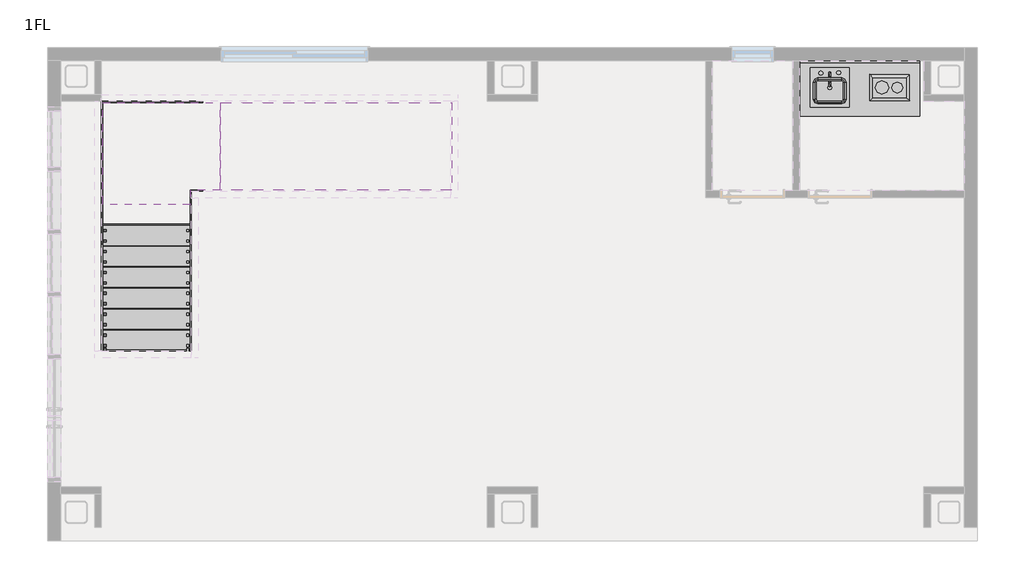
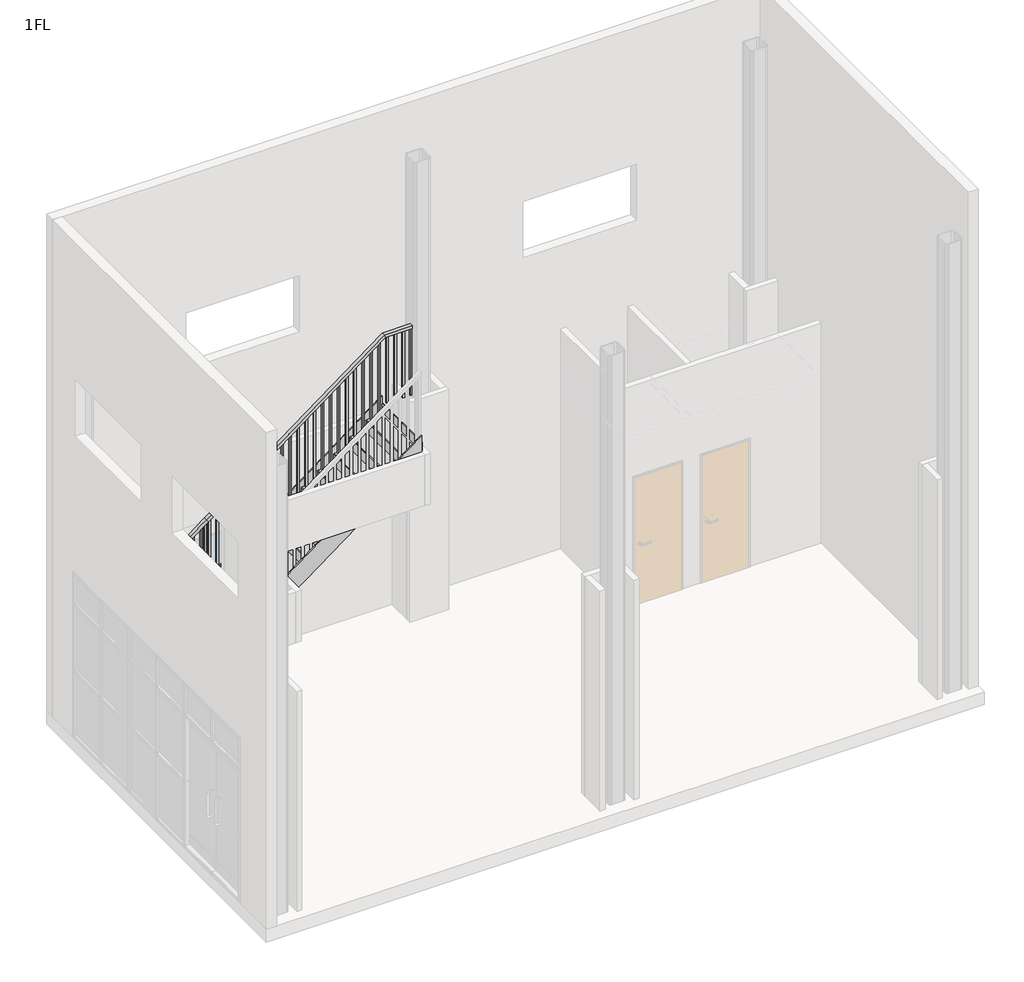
# One storey, part 3 of 3: 7 members, 2 proxies, 2 stair flights, 1 flow terminal, 1 furniture element, 1 railing, 1 slab.
"""IFC4 building model written with IfcOpenShell, lengths in millimetres."""

from ifc_helpers import new_model, si_unit, frame, origin, place, context, project, spatial, polyline, outline, extrude, faceted_brep, transform, mapped, element, save
from components import proxy_1372mm_902c12d3, proxy_305_x_457mm_75991893, flow_terminal_450_x_450mm_65598b4f, furniture_600mm_61525606, slab_593adf1e, stair_flight_b28b8e51, stair_flight_15dfc8d3

model = new_model("IFC4")

# Units and contexts
model_context = context("Model", 3, world=origin())
ifc_project = project(units=[si_unit("LENGTHUNIT", "METRE", prefix="MILLI")], contexts=[model_context])

# Site, building, storey
site = spatial("IfcSite", under=ifc_project)
building = spatial("IfcBuilding", under=site)
storey = spatial("IfcBuildingStorey", under=building, Name="1FL", Elevation=200.0)

# Proxies
placement = place(None, origin())
proxy_1372mm_shape = proxy_1372mm_902c12d3(model_context)
element("IfcBuildingElementProxy", 1, Name="システムキッチン - スケール(小) - 3D : 1372mm", ObjectType="システムキッチン - スケール(小) - 3D : 1372mm", at=placement, inside=storey, context=model_context, shape_type="MappedRepresentation", body=[
    mapped(proxy_1372mm_shape, transform((3909.3742386, 2761.0382733, 200.0), x_axis=(1.0, 0.0, 0.0), y_axis=(0.0, 1.0, 0.0), z_axis=(0.0, 0.0, 1.0))),
])
proxy_305_x_457mm_shape = proxy_305_x_457mm_75991893(model_context)
element("IfcBuildingElementProxy", 2, Name="レンジ台-2 ユニット : 305 x 457mm", ObjectType="レンジ台-2 ユニット : 305 x 457mm", at=placement, inside=storey, context=model_context, shape_type="MappedRepresentation", body=[
    mapped(proxy_305_x_457mm_shape, transform((4301.3367391, 2379.8382733, 240.0), x_axis=(0.0, 1.0, 0.0), y_axis=(-1.0, 0.0, 0.0), z_axis=(0.0, 0.0, 1.0))),
])

# Flow terminal
flow_terminal_450_x_450mm_shape = flow_terminal_450_x_450mm_65598b4f(model_context)
element("IfcFlowTerminal", 3, ObjectType="シンク キッチン - アイランド : 450 x 450mm", at=placement, inside=storey, context=model_context, shape_type="MappedRepresentation", body=[
    mapped(flow_terminal_450_x_450mm_shape, transform((3569.422703, 2453.6928722, 240.0), x_axis=(1.0, 0.0, 0.0), y_axis=(0.0, 1.0, 0.0), z_axis=(0.0, 0.0, 1.0))),
])

# Furniture
furniture_600mm_shape = furniture_600mm_61525606(model_context)
element("IfcFurniture", 4, ObjectType="カウンタ シンク開口付 : 600mm", at=placement, inside=storey, context=model_context, shape_type="MappedRepresentation", body=[
    mapped(furniture_600mm_shape, transform((4442.5742386, 2761.0382733, 240.0), x_axis=(1.0, 0.0, 0.0), y_axis=(0.0, 1.0, 0.0), z_axis=(0.0, 0.0, 1.0))),
])

# Members
element("IfcMember", 5, ObjectType="側桁 - メタル - 15 mm 幅 50 mm 奥行き", at=placement, inside=storey, context=model_context, shape_type="SweptSolid", body=[
    extrude(outline(polyline([(-563.9617267, 200.0), (-563.9617267, 486.25), (1021.0382733, 1675.0), (1121.0382733, 1375.0), (-445.6283934, 200.0), (-563.9617267, 200.0)])), frame((-4757.8880564, 0.0, 0.0), z_axis=(1.0, 0.0, 0.0), x_axis=(0.0, 1.0, 0.0)), (0.0, 0.0, 1.0), 15.0),
])
element("IfcMember", 6, ObjectType="側桁 - メタル - 15 mm 幅 50 mm 奥行き", at=placement, inside=storey, context=model_context, shape_type="SweptSolid", body=[
    extrude(outline(polyline([(-563.9617267, 200.0), (-563.9617267, 486.25), (1021.0382733, 1675.0), (1121.0382733, 1375.0), (-445.6283934, 200.0), (-563.9617267, 200.0)])), frame((-3742.8880564, 0.0, 0.0), z_axis=(1.0, 0.0, 0.0), x_axis=(0.0, 1.0, 0.0)), (0.0, 0.0, 1.0), 15.0),
])
element("IfcMember", 7, ObjectType="側桁 - メタル - 15 mm 幅 50 mm 奥行き", at=placement, inside=storey, context=model_context, shape_type="SweptSolid", body=[
    extrude(outline(polyline([(1675.0, -3732.3880564), (1375.0, -3632.3880564), (3531.25, -757.3880564), (3906.25, -757.3880564), (1675.0, -3732.3880564)])), frame((0.0, 2281.5382733, 0.0), z_axis=(0.0, 1.0, 0.0), x_axis=(0.0, 0.0, 1.0)), (0.0, 0.0, 1.0), 15.0),
])
element("IfcMember", 8, ObjectType="側桁 - メタル - 15 mm 幅 50 mm 奥行き", at=placement, inside=storey, context=model_context, shape_type="SweptSolid", body=[
    extrude(outline(polyline([(1678.375, -3727.8880564), (1375.0, -3727.8880564), (1375.0, -3632.3880564), (3531.25, -757.3880564), (3906.25, -757.3880564), (1678.375, -3727.8880564)])), frame((0.0, 1266.5382733, 0.0), z_axis=(0.0, 1.0, 0.0), x_axis=(0.0, 0.0, 1.0)), (0.0, 0.0, 1.0), 15.0),
])
element("IfcMember", 9, ObjectType="側桁 - メタル - 15 mm 幅 50 mm 奥行き", at=placement, inside=storey, context=model_context, shape_type="Brep", body=[
    faceted_brep([(-3732.3880564, 2281.5382733, 1675.0), (-3732.3880564, 2296.5382733, 1675.0), (-4757.8880564, 2296.5382733, 1675.0), (-4742.8880564, 2281.5382733, 1675.0), (-3632.3880564, 2281.5382733, 1375.0), (-4742.8880564, 2281.5382733, 1375.0), (-3632.3880564, 2296.5382733, 1375.0), (-4757.8880564, 2296.5382733, 1375.0)], [[[0, 1, 2, 3]], [[4, 0, 3, 5]], [[6, 4, 5, 7]], [[1, 6, 7, 2]], [[1, 0, 4, 6]], [[2, 7, 5, 3]]]),
])
element("IfcMember", 10, ObjectType="側桁 - メタル - 15 mm 幅 50 mm 奥行き", at=placement, inside=storey, context=model_context, shape_type="Brep", body=[
    faceted_brep([(-4742.8880564, 2281.5382733, 1675.0), (-4757.8880564, 2296.5382733, 1675.0), (-4757.8880564, 1021.0382733, 1675.0), (-4742.8880564, 1021.0382733, 1675.0), (-4742.8880564, 2281.5382733, 1375.0), (-4742.8880564, 1121.0382733, 1375.0), (-4757.8880564, 2296.5382733, 1375.0), (-4757.8880564, 1121.0382733, 1375.0)], [[[0, 1, 2, 3]], [[4, 0, 3, 5]], [[6, 4, 5, 7]], [[1, 6, 7, 2]], [[1, 0, 4, 6]], [[2, 7, 5, 3]]]),
])
element("IfcMember", 11, ObjectType="側桁 - メタル - 15 mm 幅 50 mm 奥行き", at=placement, inside=storey, context=model_context, shape_type="SweptSolid", body=[
    extrude(outline(polyline([(1121.0382733, 1375.0), (1021.0382733, 1675.0), (1281.5382733, 1675.0), (1281.5382733, 1375.0), (1121.0382733, 1375.0)])), frame((-3742.8880564, 0.0, 0.0), z_axis=(1.0, 0.0, 0.0), x_axis=(0.0, 1.0, 0.0)), (0.0, 0.0, 1.0), 15.0),
])

# Railing
element("IfcRailing", 12, ObjectType="1100mm", at=placement, inside=storey, context=model_context, shape_type="SolidModel", body=[
    faceted_brep([(-4742.4880564, -563.9617267, 1480.0), (-4742.4880564, -563.9617267, 1417.5), (-4692.4880564, -563.9617267, 1417.5), (-4692.4880564, -563.9617267, 1480.0), (-4742.4880564, 1116.0382733, 2740.0), (-4742.4880564, 1132.7049399, 2690.0), (-4692.4880564, 1132.7049399, 2690.0), (-4692.4880564, 1116.0382733, 2740.0), (-4742.4880564, 2281.1382733, 2740.0), (-4742.4880564, 2281.1382733, 2690.0), (-4692.4880564, 2231.1382733, 2690.0), (-4692.4880564, 2231.1382733, 2740.0), (-3637.3880564, 2281.1382733, 2740.0), (-3620.7213898, 2281.1382733, 2690.0), (-3620.7213898, 2231.1382733, 2690.0), (-3637.3880564, 2231.1382733, 2740.0), (-3397.3880564, 2281.1382733, 2920.0), (-3367.3880564, 2281.1382733, 2880.0), (-3367.3880564, 2231.1382733, 2880.0), (-3397.3880564, 2231.1382733, 2920.0), (-757.3880564, 2281.1382733, 4900.0), (-740.7213898, 2281.1382733, 4850.0), (-740.7213898, 2231.1382733, 4850.0), (-757.3880564, 2231.1382733, 4900.0), (-337.3880564, 2281.1382733, 4900.0), (-337.3880564, 2231.1382733, 4900.0), (-337.3880564, 2231.1382733, 4850.0), (-337.3880564, 2281.1382733, 4850.0)], [[[0, 1, 2, 3]], [[1, 0, 4, 5]], [[2, 1, 5, 6]], [[3, 2, 6, 7]], [[0, 3, 7, 4]], [[5, 4, 8, 9]], [[6, 5, 9, 10]], [[7, 6, 10, 11]], [[4, 7, 11, 8]], [[9, 8, 12, 13]], [[10, 9, 13, 14]], [[11, 10, 14, 15]], [[8, 11, 15, 12]], [[13, 12, 16, 17]], [[14, 13, 17, 18]], [[15, 14, 18, 19]], [[12, 15, 19, 16]], [[17, 16, 20, 21]], [[18, 17, 21, 22]], [[19, 18, 22, 23]], [[16, 19, 23, 20]], [[24, 25, 26, 27]], [[21, 20, 24, 27]], [[22, 21, 27, 26]], [[23, 22, 26, 25]], [[20, 23, 25, 24]]]),
    extrude(outline(polyline([(-469.8880564, 2268.6382733), (-444.8880564, 2268.6382733), (-444.8880564, 2243.6382733), (-469.8880564, 2243.6382733), (-469.8880564, 2268.6382733)])), frame((0.0, 0.0, 3800.0), z_axis=(0.0, 0.0, 1.0), x_axis=(1.0, 0.0, 0.0)), (0.0, 0.0, 1.0), 1050.0),
    extrude(outline(polyline([(-589.8880564, 2268.6382733), (-564.8880564, 2268.6382733), (-564.8880564, 2243.6382733), (-589.8880564, 2243.6382733), (-589.8880564, 2268.6382733)])), frame((0.0, 0.0, 3800.0), z_axis=(0.0, 0.0, 1.0), x_axis=(1.0, 0.0, 0.0)), (0.0, 0.0, 1.0), 1050.0),
    extrude(outline(polyline([(-709.8880564, 2268.6382733), (-684.8880564, 2268.6382733), (-684.8880564, 2243.6382733), (-709.8880564, 2243.6382733), (-709.8880564, 2268.6382733)])), frame((0.0, 0.0, 3800.0), z_axis=(0.0, 0.0, 1.0), x_axis=(1.0, 0.0, 0.0)), (0.0, 0.0, 1.0), 1050.0),
    extrude(outline(polyline([(3620.0, -829.8880564), (3620.0, -804.8880564), (4801.875, -804.8880564), (4783.125, -829.8880564), (3620.0, -829.8880564)])), frame((0.0, 2243.6382733, 0.0), z_axis=(0.0, 1.0, 0.0), x_axis=(0.0, 0.0, 1.0)), (0.0, 0.0, 1.0), 25.0),
    extrude(outline(polyline([(3620.0, -949.8880564), (3620.0, -924.8880564), (4711.875, -924.8880564), (4693.125, -949.8880564), (3620.0, -949.8880564)])), frame((0.0, 2243.6382733, 0.0), z_axis=(0.0, 1.0, 0.0), x_axis=(0.0, 0.0, 1.0)), (0.0, 0.0, 1.0), 25.0),
    extrude(outline(polyline([(3440.0, -1069.8880564), (3440.0, -1044.8880564), (4621.875, -1044.8880564), (4603.125, -1069.8880564), (3440.0, -1069.8880564)])), frame((0.0, 2243.6382733, 0.0), z_axis=(0.0, 1.0, 0.0), x_axis=(0.0, 0.0, 1.0)), (0.0, 0.0, 1.0), 25.0),
    extrude(outline(polyline([(3440.0, -1189.8880564), (3440.0, -1164.8880564), (4531.875, -1164.8880564), (4513.125, -1189.8880564), (3440.0, -1189.8880564)])), frame((0.0, 2243.6382733, 0.0), z_axis=(0.0, 1.0, 0.0), x_axis=(0.0, 0.0, 1.0)), (0.0, 0.0, 1.0), 25.0),
    extrude(outline(polyline([(3260.0, -1309.8880564), (3260.0, -1284.8880564), (4441.875, -1284.8880564), (4423.125, -1309.8880564), (3260.0, -1309.8880564)])), frame((0.0, 2243.6382733, 0.0), z_axis=(0.0, 1.0, 0.0), x_axis=(0.0, 0.0, 1.0)), (0.0, 0.0, 1.0), 25.0),
    extrude(outline(polyline([(3260.0, -1429.8880564), (3260.0, -1404.8880564), (4351.875, -1404.8880564), (4333.125, -1429.8880564), (3260.0, -1429.8880564)])), frame((0.0, 2243.6382733, 0.0), z_axis=(0.0, 1.0, 0.0), x_axis=(0.0, 0.0, 1.0)), (0.0, 0.0, 1.0), 25.0),
    extrude(outline(polyline([(3080.0, -1549.8880564), (3080.0, -1524.8880564), (4261.875, -1524.8880564), (4243.125, -1549.8880564), (3080.0, -1549.8880564)])), frame((0.0, 2243.6382733, 0.0), z_axis=(0.0, 1.0, 0.0), x_axis=(0.0, 0.0, 1.0)), (0.0, 0.0, 1.0), 25.0),
    extrude(outline(polyline([(3080.0, -1669.8880564), (3080.0, -1644.8880564), (4171.875, -1644.8880564), (4153.125, -1669.8880564), (3080.0, -1669.8880564)])), frame((0.0, 2243.6382733, 0.0), z_axis=(0.0, 1.0, 0.0), x_axis=(0.0, 0.0, 1.0)), (0.0, 0.0, 1.0), 25.0),
    extrude(outline(polyline([(2900.0, -1789.8880564), (2900.0, -1764.8880564), (4081.875, -1764.8880564), (4063.125, -1789.8880564), (2900.0, -1789.8880564)])), frame((0.0, 2243.6382733, 0.0), z_axis=(0.0, 1.0, 0.0), x_axis=(0.0, 0.0, 1.0)), (0.0, 0.0, 1.0), 25.0),
    extrude(outline(polyline([(2900.0, -1909.8880564), (2900.0, -1884.8880564), (3991.875, -1884.8880564), (3973.125, -1909.8880564), (2900.0, -1909.8880564)])), frame((0.0, 2243.6382733, 0.0), z_axis=(0.0, 1.0, 0.0), x_axis=(0.0, 0.0, 1.0)), (0.0, 0.0, 1.0), 25.0),
    extrude(outline(polyline([(2720.0, -2029.8880564), (2720.0, -2004.8880564), (3901.875, -2004.8880564), (3883.125, -2029.8880564), (2720.0, -2029.8880564)])), frame((0.0, 2243.6382733, 0.0), z_axis=(0.0, 1.0, 0.0), x_axis=(0.0, 0.0, 1.0)), (0.0, 0.0, 1.0), 25.0),
    extrude(outline(polyline([(2720.0, -2149.8880564), (2720.0, -2124.8880564), (3811.875, -2124.8880564), (3793.125, -2149.8880564), (2720.0, -2149.8880564)])), frame((0.0, 2243.6382733, 0.0), z_axis=(0.0, 1.0, 0.0), x_axis=(0.0, 0.0, 1.0)), (0.0, 0.0, 1.0), 25.0),
    extrude(outline(polyline([(2540.0, -2269.8880564), (2540.0, -2244.8880564), (3721.875, -2244.8880564), (3703.125, -2269.8880564), (2540.0, -2269.8880564)])), frame((0.0, 2243.6382733, 0.0), z_axis=(0.0, 1.0, 0.0), x_axis=(0.0, 0.0, 1.0)), (0.0, 0.0, 1.0), 25.0),
    extrude(outline(polyline([(2540.0, -2389.8880564), (2540.0, -2364.8880564), (3631.875, -2364.8880564), (3613.125, -2389.8880564), (2540.0, -2389.8880564)])), frame((0.0, 2243.6382733, 0.0), z_axis=(0.0, 1.0, 0.0), x_axis=(0.0, 0.0, 1.0)), (0.0, 0.0, 1.0), 25.0),
    extrude(outline(polyline([(2360.0, -2509.8880564), (2360.0, -2484.8880564), (3541.875, -2484.8880564), (3523.125, -2509.8880564), (2360.0, -2509.8880564)])), frame((0.0, 2243.6382733, 0.0), z_axis=(0.0, 1.0, 0.0), x_axis=(0.0, 0.0, 1.0)), (0.0, 0.0, 1.0), 25.0),
    extrude(outline(polyline([(2360.0, -2629.8880564), (2360.0, -2604.8880564), (3451.875, -2604.8880564), (3433.125, -2629.8880564), (2360.0, -2629.8880564)])), frame((0.0, 2243.6382733, 0.0), z_axis=(0.0, 1.0, 0.0), x_axis=(0.0, 0.0, 1.0)), (0.0, 0.0, 1.0), 25.0),
    extrude(outline(polyline([(2180.0, -2749.8880564), (2180.0, -2724.8880564), (3361.875, -2724.8880564), (3343.125, -2749.8880564), (2180.0, -2749.8880564)])), frame((0.0, 2243.6382733, 0.0), z_axis=(0.0, 1.0, 0.0), x_axis=(0.0, 0.0, 1.0)), (0.0, 0.0, 1.0), 25.0),
    extrude(outline(polyline([(2180.0, -2869.8880564), (2180.0, -2844.8880564), (3271.875, -2844.8880564), (3253.125, -2869.8880564), (2180.0, -2869.8880564)])), frame((0.0, 2243.6382733, 0.0), z_axis=(0.0, 1.0, 0.0), x_axis=(0.0, 0.0, 1.0)), (0.0, 0.0, 1.0), 25.0),
    extrude(outline(polyline([(2000.0, -2989.8880564), (2000.0, -2964.8880564), (3181.875, -2964.8880564), (3163.125, -2989.8880564), (2000.0, -2989.8880564)])), frame((0.0, 2243.6382733, 0.0), z_axis=(0.0, 1.0, 0.0), x_axis=(0.0, 0.0, 1.0)), (0.0, 0.0, 1.0), 25.0),
    extrude(outline(polyline([(2000.0, -3109.8880564), (2000.0, -3084.8880564), (3091.875, -3084.8880564), (3073.125, -3109.8880564), (2000.0, -3109.8880564)])), frame((0.0, 2243.6382733, 0.0), z_axis=(0.0, 1.0, 0.0), x_axis=(0.0, 0.0, 1.0)), (0.0, 0.0, 1.0), 25.0),
    extrude(outline(polyline([(1820.0, -3229.8880564), (1820.0, -3204.8880564), (3001.875, -3204.8880564), (2983.125, -3229.8880564), (1820.0, -3229.8880564)])), frame((0.0, 2243.6382733, 0.0), z_axis=(0.0, 1.0, 0.0), x_axis=(0.0, 0.0, 1.0)), (0.0, 0.0, 1.0), 25.0),
    extrude(outline(polyline([(1820.0, -3349.8880564), (1820.0, -3324.8880564), (2911.875, -3324.8880564), (2893.125, -3349.8880564), (1820.0, -3349.8880564)])), frame((0.0, 2243.6382733, 0.0), z_axis=(0.0, 1.0, 0.0), x_axis=(0.0, 0.0, 1.0)), (0.0, 0.0, 1.0), 25.0),
    extrude(outline(polyline([(1640.0, -3469.9880564), (1640.0, -3444.9880564), (2821.8, -3444.9880564), (2803.05, -3469.9880564), (1640.0, -3469.9880564)])), frame((0.0, 2243.6382733, 0.0), z_axis=(0.0, 1.0, 0.0), x_axis=(0.0, 0.0, 1.0)), (0.0, 0.0, 1.0), 25.0),
    extrude(outline(polyline([(1640.0, -3589.9880564), (1640.0, -3564.9880564), (2731.8, -3564.9880564), (2713.05, -3589.9880564), (1640.0, -3589.9880564)])), frame((0.0, 2243.6382733, 0.0), z_axis=(0.0, 1.0, 0.0), x_axis=(0.0, 0.0, 1.0)), (0.0, 0.0, 1.0), 25.0),
    extrude(outline(polyline([(-3709.9880564, 2268.6382733), (-3684.9880564, 2268.6382733), (-3684.9880564, 2243.6382733), (-3709.9880564, 2243.6382733), (-3709.9880564, 2268.6382733)])), frame((0.0, 0.0, 1640.0), z_axis=(0.0, 0.0, 1.0), x_axis=(1.0, 0.0, 0.0)), (0.0, 0.0, 1.0), 1050.0),
    extrude(outline(polyline([(-3829.9880564, 2268.6382733), (-3804.9880564, 2268.6382733), (-3804.9880564, 2243.6382733), (-3829.9880564, 2243.6382733), (-3829.9880564, 2268.6382733)])), frame((0.0, 0.0, 1640.0), z_axis=(0.0, 0.0, 1.0), x_axis=(1.0, 0.0, 0.0)), (0.0, 0.0, 1.0), 1050.0),
    extrude(outline(polyline([(-3949.9880564, 2268.6382733), (-3924.9880564, 2268.6382733), (-3924.9880564, 2243.6382733), (-3949.9880564, 2243.6382733), (-3949.9880564, 2268.6382733)])), frame((0.0, 0.0, 1640.0), z_axis=(0.0, 0.0, 1.0), x_axis=(1.0, 0.0, 0.0)), (0.0, 0.0, 1.0), 1050.0),
    extrude(outline(polyline([(-4069.9880564, 2268.6382733), (-4044.9880564, 2268.6382733), (-4044.9880564, 2243.6382733), (-4069.9880564, 2243.6382733), (-4069.9880564, 2268.6382733)])), frame((0.0, 0.0, 1640.0), z_axis=(0.0, 0.0, 1.0), x_axis=(1.0, 0.0, 0.0)), (0.0, 0.0, 1.0), 1050.0),
    extrude(outline(polyline([(-4189.9880564, 2268.6382733), (-4164.9880564, 2268.6382733), (-4164.9880564, 2243.6382733), (-4189.9880564, 2243.6382733), (-4189.9880564, 2268.6382733)])), frame((0.0, 0.0, 1640.0), z_axis=(0.0, 0.0, 1.0), x_axis=(1.0, 0.0, 0.0)), (0.0, 0.0, 1.0), 1050.0),
    extrude(outline(polyline([(-4309.9880564, 2268.6382733), (-4284.9880564, 2268.6382733), (-4284.9880564, 2243.6382733), (-4309.9880564, 2243.6382733), (-4309.9880564, 2268.6382733)])), frame((0.0, 0.0, 1640.0), z_axis=(0.0, 0.0, 1.0), x_axis=(1.0, 0.0, 0.0)), (0.0, 0.0, 1.0), 1050.0),
    extrude(outline(polyline([(-4429.9880564, 2268.6382733), (-4404.9880564, 2268.6382733), (-4404.9880564, 2243.6382733), (-4429.9880564, 2243.6382733), (-4429.9880564, 2268.6382733)])), frame((0.0, 0.0, 1640.0), z_axis=(0.0, 0.0, 1.0), x_axis=(1.0, 0.0, 0.0)), (0.0, 0.0, 1.0), 1050.0),
    extrude(outline(polyline([(-4549.9880564, 2268.6382733), (-4524.9880564, 2268.6382733), (-4524.9880564, 2243.6382733), (-4549.9880564, 2243.6382733), (-4549.9880564, 2268.6382733)])), frame((0.0, 0.0, 1640.0), z_axis=(0.0, 0.0, 1.0), x_axis=(1.0, 0.0, 0.0)), (0.0, 0.0, 1.0), 1050.0),
    extrude(outline(polyline([(-4669.9880564, 2268.6382733), (-4644.9880564, 2268.6382733), (-4644.9880564, 2243.6382733), (-4669.9880564, 2243.6382733), (-4669.9880564, 2268.6382733)])), frame((0.0, 0.0, 1640.0), z_axis=(0.0, 0.0, 1.0), x_axis=(1.0, 0.0, 0.0)), (0.0, 0.0, 1.0), 1050.0),
    extrude(outline(polyline([(-4729.9880564, 2243.5382733), (-4729.9880564, 2268.5382733), (-4704.9880564, 2268.5382733), (-4704.9880564, 2243.5382733), (-4729.9880564, 2243.5382733)])), frame((0.0, 0.0, 1640.0), z_axis=(0.0, 0.0, 1.0), x_axis=(1.0, 0.0, 0.0)), (0.0, 0.0, 1.0), 1050.0),
    extrude(outline(polyline([(-4729.9880564, 2123.5382733), (-4729.9880564, 2148.5382733), (-4704.9880564, 2148.5382733), (-4704.9880564, 2123.5382733), (-4729.9880564, 2123.5382733)])), frame((0.0, 0.0, 1640.0), z_axis=(0.0, 0.0, 1.0), x_axis=(1.0, 0.0, 0.0)), (0.0, 0.0, 1.0), 1050.0),
    extrude(outline(polyline([(-4729.9880564, 2003.5382733), (-4729.9880564, 2028.5382733), (-4704.9880564, 2028.5382733), (-4704.9880564, 2003.5382733), (-4729.9880564, 2003.5382733)])), frame((0.0, 0.0, 1640.0), z_axis=(0.0, 0.0, 1.0), x_axis=(1.0, 0.0, 0.0)), (0.0, 0.0, 1.0), 1050.0),
    extrude(outline(polyline([(-4729.9880564, 1883.5382733), (-4729.9880564, 1908.5382733), (-4704.9880564, 1908.5382733), (-4704.9880564, 1883.5382733), (-4729.9880564, 1883.5382733)])), frame((0.0, 0.0, 1640.0), z_axis=(0.0, 0.0, 1.0), x_axis=(1.0, 0.0, 0.0)), (0.0, 0.0, 1.0), 1050.0),
    extrude(outline(polyline([(-4729.9880564, 1763.5382733), (-4729.9880564, 1788.5382733), (-4704.9880564, 1788.5382733), (-4704.9880564, 1763.5382733), (-4729.9880564, 1763.5382733)])), frame((0.0, 0.0, 1640.0), z_axis=(0.0, 0.0, 1.0), x_axis=(1.0, 0.0, 0.0)), (0.0, 0.0, 1.0), 1050.0),
    extrude(outline(polyline([(-4729.9880564, 1643.5382733), (-4729.9880564, 1668.5382733), (-4704.9880564, 1668.5382733), (-4704.9880564, 1643.5382733), (-4729.9880564, 1643.5382733)])), frame((0.0, 0.0, 1640.0), z_axis=(0.0, 0.0, 1.0), x_axis=(1.0, 0.0, 0.0)), (0.0, 0.0, 1.0), 1050.0),
    extrude(outline(polyline([(-4729.9880564, 1523.5382733), (-4729.9880564, 1548.5382733), (-4704.9880564, 1548.5382733), (-4704.9880564, 1523.5382733), (-4729.9880564, 1523.5382733)])), frame((0.0, 0.0, 1640.0), z_axis=(0.0, 0.0, 1.0), x_axis=(1.0, 0.0, 0.0)), (0.0, 0.0, 1.0), 1050.0),
    extrude(outline(polyline([(-4729.9880564, 1403.5382733), (-4729.9880564, 1428.5382733), (-4704.9880564, 1428.5382733), (-4704.9880564, 1403.5382733), (-4729.9880564, 1403.5382733)])), frame((0.0, 0.0, 1640.0), z_axis=(0.0, 0.0, 1.0), x_axis=(1.0, 0.0, 0.0)), (0.0, 0.0, 1.0), 1050.0),
    extrude(outline(polyline([(-4729.9880564, 1283.5382733), (-4729.9880564, 1308.5382733), (-4704.9880564, 1308.5382733), (-4704.9880564, 1283.5382733), (-4729.9880564, 1283.5382733)])), frame((0.0, 0.0, 1640.0), z_axis=(0.0, 0.0, 1.0), x_axis=(1.0, 0.0, 0.0)), (0.0, 0.0, 1.0), 1050.0),
    extrude(outline(polyline([(-4729.9880564, 1163.5382733), (-4729.9880564, 1188.5382733), (-4704.9880564, 1188.5382733), (-4704.9880564, 1163.5382733), (-4729.9880564, 1163.5382733)])), frame((0.0, 0.0, 1640.0), z_axis=(0.0, 0.0, 1.0), x_axis=(1.0, 0.0, 0.0)), (0.0, 0.0, 1.0), 1050.0),
    extrude(outline(polyline([(1043.5382733, 2623.125), (1068.5382733, 2641.875), (1068.5382733, 1460.0), (1043.5382733, 1460.0), (1043.5382733, 2623.125)])), frame((-4729.9880564, 0.0, 0.0), z_axis=(1.0, 0.0, 0.0), x_axis=(0.0, 1.0, 0.0)), (0.0, 0.0, 1.0), 25.0),
    extrude(outline(polyline([(923.5382733, 2533.125), (948.5382733, 2551.875), (948.5382733, 1460.0), (923.5382733, 1460.0), (923.5382733, 2533.125)])), frame((-4729.9880564, 0.0, 0.0), z_axis=(1.0, 0.0, 0.0), x_axis=(0.0, 1.0, 0.0)), (0.0, 0.0, 1.0), 25.0),
    extrude(outline(polyline([(803.5382733, 2443.125), (828.5382733, 2461.875), (828.5382733, 1280.0), (803.5382733, 1280.0), (803.5382733, 2443.125)])), frame((-4729.9880564, 0.0, 0.0), z_axis=(1.0, 0.0, 0.0), x_axis=(0.0, 1.0, 0.0)), (0.0, 0.0, 1.0), 25.0),
    extrude(outline(polyline([(683.5382733, 2353.125), (708.5382733, 2371.875), (708.5382733, 1280.0), (683.5382733, 1280.0), (683.5382733, 2353.125)])), frame((-4729.9880564, 0.0, 0.0), z_axis=(1.0, 0.0, 0.0), x_axis=(0.0, 1.0, 0.0)), (0.0, 0.0, 1.0), 25.0),
    extrude(outline(polyline([(563.5382733, 2263.125), (588.5382733, 2281.875), (588.5382733, 1100.0), (563.5382733, 1100.0), (563.5382733, 2263.125)])), frame((-4729.9880564, 0.0, 0.0), z_axis=(1.0, 0.0, 0.0), x_axis=(0.0, 1.0, 0.0)), (0.0, 0.0, 1.0), 25.0),
    extrude(outline(polyline([(443.5382733, 2173.125), (468.5382733, 2191.875), (468.5382733, 1100.0), (443.5382733, 1100.0), (443.5382733, 2173.125)])), frame((-4729.9880564, 0.0, 0.0), z_axis=(1.0, 0.0, 0.0), x_axis=(0.0, 1.0, 0.0)), (0.0, 0.0, 1.0), 25.0),
    extrude(outline(polyline([(323.5382733, 2083.125), (348.5382733, 2101.875), (348.5382733, 920.0), (323.5382733, 920.0), (323.5382733, 2083.125)])), frame((-4729.9880564, 0.0, 0.0), z_axis=(1.0, 0.0, 0.0), x_axis=(0.0, 1.0, 0.0)), (0.0, 0.0, 1.0), 25.0),
    extrude(outline(polyline([(203.5382733, 1993.125), (228.5382733, 2011.875), (228.5382733, 920.0), (203.5382733, 920.0), (203.5382733, 1993.125)])), frame((-4729.9880564, 0.0, 0.0), z_axis=(1.0, 0.0, 0.0), x_axis=(0.0, 1.0, 0.0)), (0.0, 0.0, 1.0), 25.0),
    extrude(outline(polyline([(83.5382733, 1903.125), (108.5382733, 1921.875), (108.5382733, 740.0), (83.5382733, 740.0), (83.5382733, 1903.125)])), frame((-4729.9880564, 0.0, 0.0), z_axis=(1.0, 0.0, 0.0), x_axis=(0.0, 1.0, 0.0)), (0.0, 0.0, 1.0), 25.0),
    extrude(outline(polyline([(-36.4617267, 1813.125), (-11.4617267, 1831.875), (-11.4617267, 740.0), (-36.4617267, 740.0), (-36.4617267, 1813.125)])), frame((-4729.9880564, 0.0, 0.0), z_axis=(1.0, 0.0, 0.0), x_axis=(0.0, 1.0, 0.0)), (0.0, 0.0, 1.0), 25.0),
    extrude(outline(polyline([(-156.4617267, 1723.125), (-131.4617267, 1741.875), (-131.4617267, 560.0), (-156.4617267, 560.0), (-156.4617267, 1723.125)])), frame((-4729.9880564, 0.0, 0.0), z_axis=(1.0, 0.0, 0.0), x_axis=(0.0, 1.0, 0.0)), (0.0, 0.0, 1.0), 25.0),
    extrude(outline(polyline([(-276.4617267, 1633.125), (-251.4617267, 1651.875), (-251.4617267, 560.0), (-276.4617267, 560.0), (-276.4617267, 1633.125)])), frame((-4729.9880564, 0.0, 0.0), z_axis=(1.0, 0.0, 0.0), x_axis=(0.0, 1.0, 0.0)), (0.0, 0.0, 1.0), 25.0),
    extrude(outline(polyline([(-396.4617267, 1543.125), (-371.4617267, 1561.875), (-371.4617267, 380.0), (-396.4617267, 380.0), (-396.4617267, 1543.125)])), frame((-4729.9880564, 0.0, 0.0), z_axis=(1.0, 0.0, 0.0), x_axis=(0.0, 1.0, 0.0)), (0.0, 0.0, 1.0), 25.0),
    extrude(outline(polyline([(-516.4617267, 1453.125), (-491.4617267, 1471.875), (-491.4617267, 380.0), (-516.4617267, 380.0), (-516.4617267, 1453.125)])), frame((-4729.9880564, 0.0, 0.0), z_axis=(1.0, 0.0, 0.0), x_axis=(0.0, 1.0, 0.0)), (0.0, 0.0, 1.0), 25.0),
    extrude(outline(polyline([(1640.0, -3409.8880564), (1640.0, -3384.8880564), (2866.875, -3384.8880564), (2848.125, -3409.8880564), (1640.0, -3409.8880564)])), frame((0.0, 2243.6382733, 0.0), z_axis=(0.0, 1.0, 0.0), x_axis=(0.0, 0.0, 1.0)), (0.0, 0.0, 1.0), 25.0),
    extrude(outline(polyline([(-4729.9880564, 2243.6382733), (-4729.9880564, 2268.6382733), (-4704.9880564, 2268.6382733), (-4704.9880564, 2243.6382733), (-4729.9880564, 2243.6382733)])), frame((0.0, 0.0, 1640.0), z_axis=(0.0, 0.0, 1.0), x_axis=(1.0, 0.0, 0.0)), (0.0, 0.0, 1.0), 1050.0),
    extrude(outline(polyline([(1103.5382733, 2668.125), (1128.5382733, 2686.875), (1128.5382733, 1640.0), (1103.5382733, 1640.0), (1103.5382733, 2668.125)])), frame((-4729.9880564, 0.0, 0.0), z_axis=(1.0, 0.0, 0.0), x_axis=(0.0, 1.0, 0.0)), (0.0, 0.0, 1.0), 25.0),
    extrude(outline(polyline([(-362.3880564, 2268.6382733), (-337.3880564, 2268.6382733), (-337.3880564, 2243.6382733), (-362.3880564, 2243.6382733), (-362.3880564, 2268.6382733)])), frame((0.0, 0.0, 3800.0), z_axis=(0.0, 0.0, 1.0), x_axis=(1.0, 0.0, 0.0)), (0.0, 0.0, 1.0), 1050.0),
    extrude(outline(polyline([(-563.9617267, 1417.5), (-538.9617267, 1436.25), (-538.9617267, 380.0), (-563.9617267, 380.0), (-563.9617267, 1417.5)])), frame((-4729.9880564, 0.0, 0.0), z_axis=(1.0, 0.0, 0.0), x_axis=(0.0, 1.0, 0.0)), (0.0, 0.0, 1.0), 25.0),
])

# Slab
slab_shape = slab_593adf1e(model_context)
element("IfcSlab", 13, ObjectType="一体型ではない踊り場", at=placement, inside=storey, context=model_context, shape_type="MappedRepresentation", body=[
    mapped(slab_shape, transform((0.0, 0.0, 0.0), x_axis=(1.0, 0.0, 0.0), y_axis=(0.0, 1.0, 0.0), z_axis=(0.0, 0.0, 1.0))),
])

# Stair flights
stair_flight_shape = stair_flight_b28b8e51(model_context)
element("IfcStairFlight", 14, ObjectType="メタル階段 15 mm 踏み板 15 mm 蹴上げ", at=placement, inside=storey, context=model_context, shape_type="MappedRepresentation", body=[
    mapped(stair_flight_shape, transform((0.0, 0.0, 0.0), x_axis=(1.0, 0.0, 0.0), y_axis=(0.0, 1.0, 0.0), z_axis=(0.0, 0.0, 1.0))),
])
stair_flight_2_shape = stair_flight_15dfc8d3(model_context)
element("IfcStairFlight", 15, ObjectType="メタル階段 15 mm 踏み板 15 mm 蹴上げ", at=placement, inside=storey, context=model_context, shape_type="MappedRepresentation", body=[
    mapped(stair_flight_2_shape, transform((0.0, 0.0, 0.0), x_axis=(1.0, 0.0, 0.0), y_axis=(0.0, 1.0, 0.0), z_axis=(0.0, 0.0, 1.0))),
])

save(model, "model.ifc")
